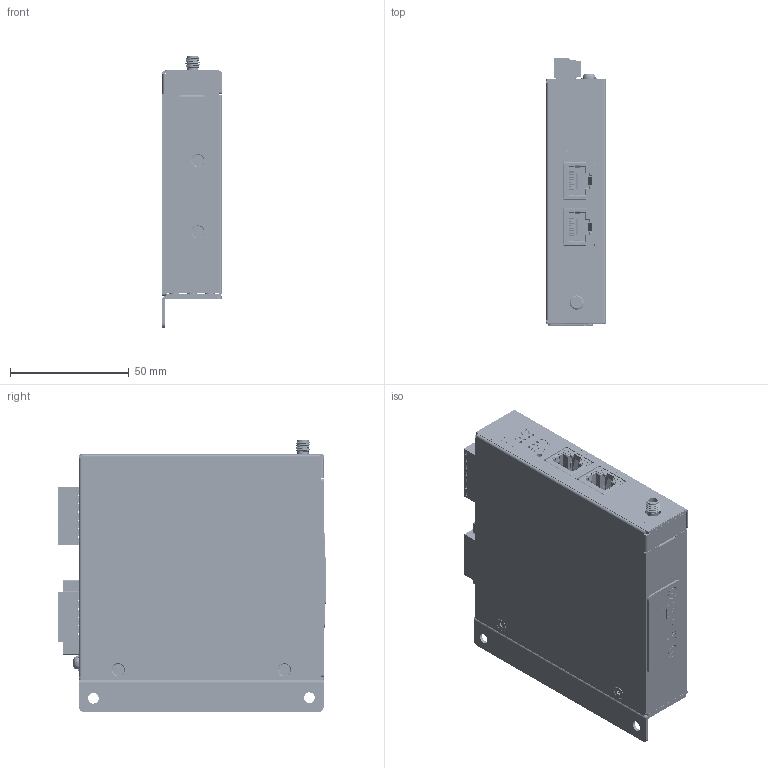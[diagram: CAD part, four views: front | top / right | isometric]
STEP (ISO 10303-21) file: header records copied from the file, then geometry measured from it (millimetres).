
FILE_DESCRIPTION (( 'STEP AP214' ), '1' );
FILE_NAME ('ICR-2412_Wall_mount.STEP', '2024-10-04T09:04:21', ( '' ), ( '' ), 'SwSTEP 2.0', 'SolidWorks 2024', '' );
FILE_SCHEMA (( 'AUTOMOTIVE_DESIGN' ));
Length unit declared in the file: millimetre
Products named in the file (28): SIM7155-6-1-14-A_PART2; Wall_mount_ICR-2(0,4)xx; SMA_5P_Connector; ICR-2412_FRONT_Label; Terminal_Block_1x6P; SCR_BK_M3_L5_PH_FL_TW_GLUE; VMC-2022-04-1_Label - Insert SIM carefully_B; Plug-In_Block_1x6P; BTB_20P_Connector; SIM7155-6-1-14-A_PART1; VMC-2022-04-1_Label - Insert SIM carefully; SCR_ZC_M3_L6_PH_PW_2; PCB_ICR-20(4)xx; B-ICR24xx-1A-A10-1; Plug-In_Block_1x7P; LED_HOLDER_GGGG; VMC-2022-04-1_Label - Insert SIM carefully_A; Micro_SIM_ card_Connector; SCR_ZC_M3_L6_PH_PW; SCR_BK_M3_L5_PH_FL_TW; PUSH_SW_3P; Plate_for_SIM_ICR-2(0,4,5,6)xx; Terminal_Block_1x7P; Pin_Header_5x2P; ICR-2412_Wall_mount; RJ45_8p_ Connector; Cover_for_ICR_24xx; Chassis_for_ICR-24xx
Assembly tree (40 placements, depth 4):
  ICR-2412_Wall_mount
    B-ICR24xx-1A-A10-1
      PCB_ICR-20(4)xx
      Micro_SIM_ card_Connector  x2
        SIM7155-6-1-14-A_PART1
        SIM7155-6-1-14-A_PART2
      Terminal_Block_1x7P
      Pin_Header_5x2P
      Terminal_Block_1x6P
      PUSH_SW_3P
      SMA_5P_Connector
      LED_HOLDER_GGGG  x2
      RJ45_8p_ Connector  x2
      BTB_20P_Connector
    Chassis_for_ICR-24xx
    Cover_for_ICR_24xx
    Plate_for_SIM_ICR-2(0,4,5,6)xx
    Plug-In_Block_1x7P
    Plug-In_Block_1x6P
    ICR-2412_FRONT_Label
    VMC-2022-04-1_Label - Insert SIM carefully
      VMC-2022-04-1_Label - Insert SIM carefully_A
      VMC-2022-04-1_Label - Insert SIM carefully_B
    SCR_BK_M3_L5_PH_FL_TW  x5
    SCR_BK_M3_L5_PH_FL_TW_GLUE  x4
    SCR_ZC_M3_L6_PH_PW_2
    SCR_ZC_M3_L6_PH_PW  x4
    Wall_mount_ICR-2(0,4)xx
Bounding box: 25 x 112.9 x 114.6 mm (x, y, z)
Volume: 65287.8 mm3; surface area: 117851.9 mm2
Topology: 57 solids, 71 shells, 12212 faces, 34121 edges, 22087 vertices
Faces by surface type: plane 8015, cylinder 2741, bspline 989, cone 290, torus 101, sphere 76
Entity records: 422654 total; most frequent: CARTESIAN_POINT 102652, ORIENTED_EDGE 50096, DIRECTION 43467, EDGE_CURVE 25048, LINE 18799, VECTOR 18799, VERTEX_POINT 16214, AXIS2_PLACEMENT_3D 12334
